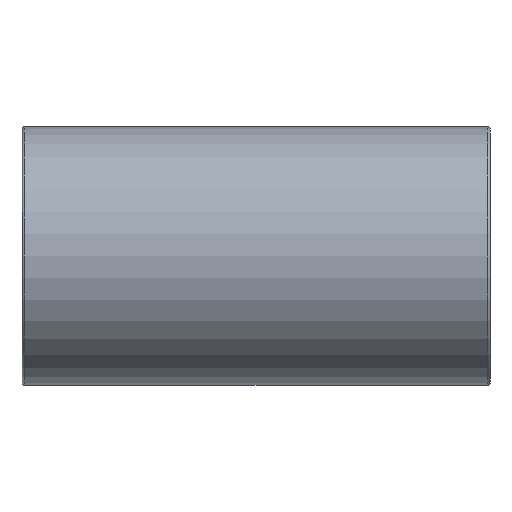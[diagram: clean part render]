
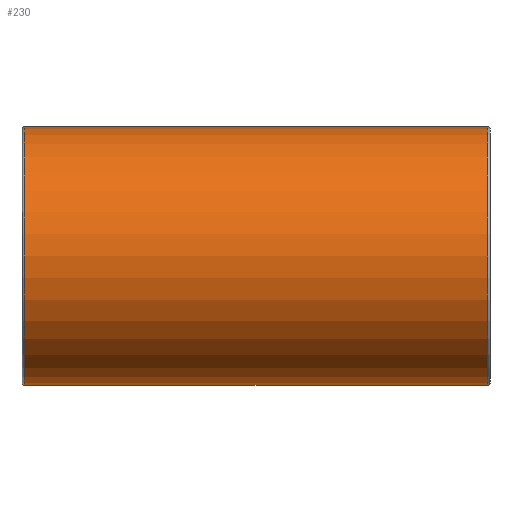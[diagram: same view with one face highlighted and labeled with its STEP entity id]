
A CAD part, front view. The second image highlights one B-rep face of the part: STEP entity #230.
In plain terms, the highlighted cylindrical face has radius 66 mm (diameter 132 mm), a full revolution.
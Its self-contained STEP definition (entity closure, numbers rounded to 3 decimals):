
#26=FACE_BOUND('',#93,.T.);
#27=FACE_BOUND('',#94,.T.);
#46=CIRCLE('',#255,66.);
#47=CIRCLE('',#256,66.);
#63=CYLINDRICAL_SURFACE('',#254,66.);
#72=FACE_OUTER_BOUND('',#92,.T.);
#92=EDGE_LOOP('',(#184));
#93=EDGE_LOOP('',(#185,#186));
#94=EDGE_LOOP('',(#187));
#130=ELLIPSE('',#250,97.308,66.);
#132=ELLIPSE('',#252,97.308,66.);
#136=VERTEX_POINT('',#460);
#137=VERTEX_POINT('',#461);
#138=VERTEX_POINT('',#551);
#139=VERTEX_POINT('',#553);
#157=EDGE_CURVE('',#136,#137,#130,.T.);
#159=EDGE_CURVE('',#137,#136,#132,.T.);
#161=EDGE_CURVE('',#138,#138,#46,.T.);
#162=EDGE_CURVE('',#139,#139,#47,.T.);
#184=ORIENTED_EDGE('',*,*,#161,.F.);
#185=ORIENTED_EDGE('',*,*,#159,.F.);
#186=ORIENTED_EDGE('',*,*,#157,.F.);
#187=ORIENTED_EDGE('',*,*,#162,.F.);
#230=ADVANCED_FACE('',(#72,#26,#27),#63,.T.);
#250=AXIS2_PLACEMENT_3D('',#462,#293,#294);
#252=AXIS2_PLACEMENT_3D('',#548,#297,#298);
#254=AXIS2_PLACEMENT_3D('',#550,#301,#302);
#255=AXIS2_PLACEMENT_3D('',#552,#303,#304);
#256=AXIS2_PLACEMENT_3D('',#554,#305,#306);
#293=DIRECTION('center_axis',(-0.678,0.735,0.));
#294=DIRECTION('ref_axis',(0.735,0.678,0.));
#297=DIRECTION('center_axis',(0.678,0.735,0.));
#298=DIRECTION('ref_axis',(-0.735,0.678,0.));
#301=DIRECTION('center_axis',(1.,0.,0.));
#302=DIRECTION('ref_axis',(0.,1.,0.));
#303=DIRECTION('center_axis',(-1.,0.,0.));
#304=DIRECTION('ref_axis',(0.,-1.,0.));
#305=DIRECTION('center_axis',(1.,0.,0.));
#306=DIRECTION('ref_axis',(0.,-1.,0.));
#460=CARTESIAN_POINT('',(0.,0.,66.));
#461=CARTESIAN_POINT('',(0.,0.,-66.));
#462=CARTESIAN_POINT('Origin',(0.,0.,0.));
#548=CARTESIAN_POINT('Origin',(0.,0.,0.));
#550=CARTESIAN_POINT('Origin',(0.,0.,
0.));
#551=CARTESIAN_POINT('',(-118.399,66.,0.));
#552=CARTESIAN_POINT('Origin',(-118.399,0.,0.));
#553=CARTESIAN_POINT('',(118.399,66.,0.));
#554=CARTESIAN_POINT('Origin',(118.399,0.,0.));
